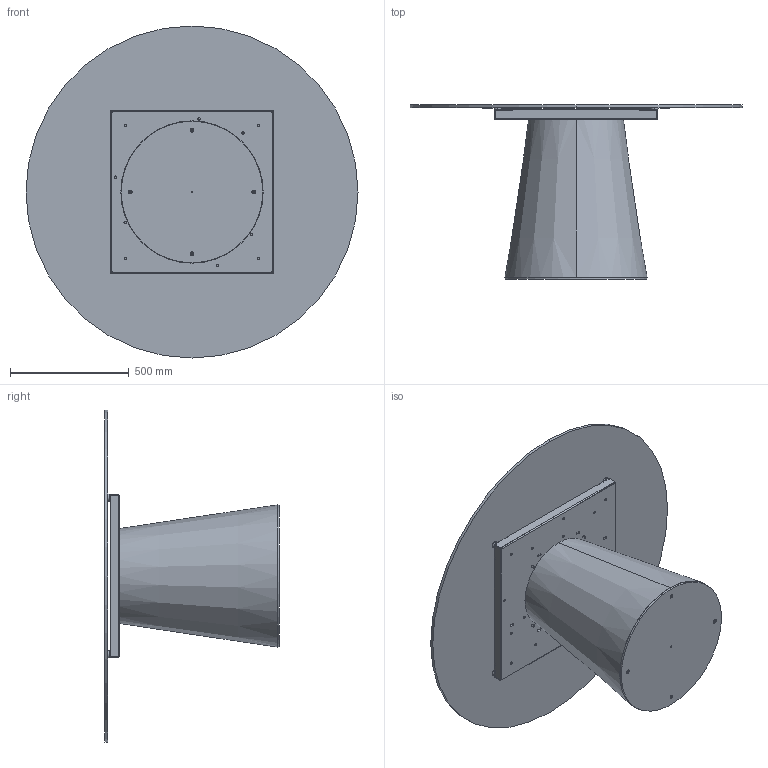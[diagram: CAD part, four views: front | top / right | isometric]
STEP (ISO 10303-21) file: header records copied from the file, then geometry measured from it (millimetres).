
FILE_DESCRIPTION (( 'STEP AP203' ), '1' );
FILE_NAME ('TO06G_Teo_d.140_Glass.STEP', '2024-08-02T09:19:47', ( '' ), ( '' ), 'SwSTEP 2.0', 'SolidWorks 2022', '' );
FILE_SCHEMA (( 'CONFIG_CONTROL_DESIGN' ));
Length unit declared in the file: millimetre
Products named in the file (11): M8xXXmm_hex_M8X20mm; TEO000000PIA-00-TEO PIASTRA DI BASE IN METALLO GREZZO; TEO0000-00-TEO BASE LEGNO IMPIALLACCIATA LEVIGATO PRONTA X VERNICE; TTAV0801 TELAIO UNIVERSALE TONDO-PIASTRINA; TTAV0801-02-TELAIO UNIVERSALE TONDO; 434070-00-PIEDINO TPV GOMMA NERO D. 30x8max18_filo estetico; C1XCRMXX-00-piani Rotondi Cristallo_C06 D.140cm; COLLO TELAIO UNIVERSALE TTAV0801 CON FERRAMENTA_MTG TOP CRISTALLO VERNICIATO-CERAMICA; TO06G_Teo_d.140_Glass; BASE TED LEGNO CON ZAVORRA; TTAV0801-02-TELAIO UNIVERSALE TONDO-VASSOIO
Assembly tree (19 placements, depth 4):
  TO06G_Teo_d.140_Glass
    BASE TED LEGNO CON ZAVORRA
      TEO000000PIA-00-TEO PIASTRA DI BASE IN METALLO GREZZO
      TEO0000-00-TEO BASE LEGNO IMPIALLACCIATA LEVIGATO PRONTA X VERNICE
      M8xXXmm_hex_M8X20mm  x4
    COLLO TELAIO UNIVERSALE TTAV0801 CON FERRAMENTA_MTG TOP CRISTALLO VERNICIATO-CERAMICA
      TTAV0801-02-TELAIO UNIVERSALE TONDO
        TTAV0801-02-TELAIO UNIVERSALE TONDO-VASSOIO
        TTAV0801 TELAIO UNIVERSALE TONDO-PIASTRINA  x4
      434070-00-PIEDINO TPV GOMMA NERO D. 30x8max18_filo estetico  x4
    C1XCRMXX-00-piani Rotondi Cristallo_C06 D.140cm
Bounding box: 1400 x 735.19 x 1400 mm (x, y, z)
Volume: 48737570.7 mm3; surface area: 7558254.3 mm2
Topology: 20 solids, 20 shells, 648 faces, 1650 edges, 1040 vertices
Faces by surface type: plane 322, cylinder 266, cone 36, torus 24
Entity records: 13956 total; most frequent: DIRECTION 2275, CARTESIAN_POINT 2146, ORIENTED_EDGE 2102, EDGE_CURVE 1051, AXIS2_PLACEMENT_3D 806, VERTEX_POINT 677, LINE 663, VECTOR 663
